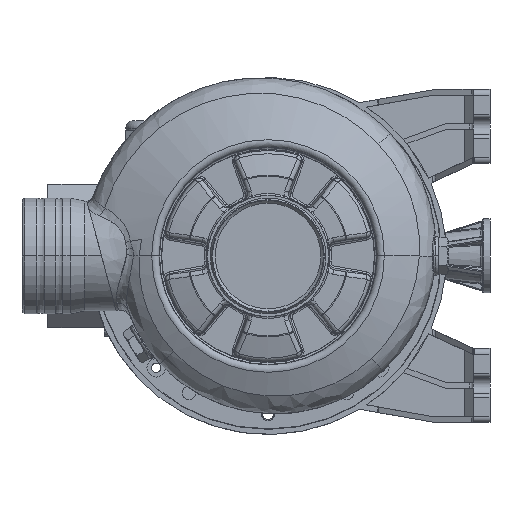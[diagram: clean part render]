
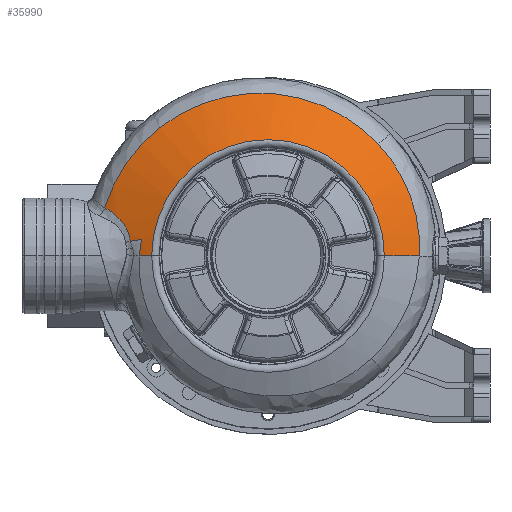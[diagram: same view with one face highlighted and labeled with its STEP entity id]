
A CAD part, left-side view. The second image highlights one B-rep face of the part: STEP entity #35990.
In plain terms, the highlighted spherical face has radius 172 mm.
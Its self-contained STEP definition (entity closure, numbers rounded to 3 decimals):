
#26581=CARTESIAN_POINT('',(0.,0.,36.093));
#26582=DIRECTION('',(0.,0.,-1.));
#26583=DIRECTION('',(0.,1.,0.));
#26584=AXIS2_PLACEMENT_3D('',#26581,#26582,#26583);
#26589=CARTESIAN_POINT('',(0.,0.,-124.));
#26590=DIRECTION('',(1.,0.,0.));
#26591=DIRECTION('',(0.,0.405,0.914));
#26592=AXIS2_PLACEMENT_3D('',#26589,#26590,#26591);
#26597=CARTESIAN_POINT('',(9.009,68.431,33.544));
#26598=CARTESIAN_POINT('',(8.266,68.578,33.522));
#26599=CARTESIAN_POINT('',(6.775,68.847,33.48));
#26600=CARTESIAN_POINT('',(4.526,69.175,33.417));
#26601=CARTESIAN_POINT('',(2.643,69.386,33.365));
#26602=CARTESIAN_POINT('',(1.134,69.517,33.323));
#26603=CARTESIAN_POINT('',(0.378,69.57,
33.302));
#26604=CARTESIAN_POINT('',(0.,69.594,
33.292));
#26609=CARTESIAN_POINT('',(9.009,68.431,33.544));
#26610=CARTESIAN_POINT('',(8.707,70.44,32.688));
#26611=CARTESIAN_POINT('',(8.356,72.427,31.799));
#26612=CARTESIAN_POINT('',(7.957,74.388,30.878));
#26617=CARTESIAN_POINT('',(7.957,74.388,30.878));
#26618=CARTESIAN_POINT('',(10.071,74.682,30.628));
#26619=CARTESIAN_POINT('',(14.185,75.867,29.757));
#26620=CARTESIAN_POINT('',(18.437,78.68,27.861));
#26621=CARTESIAN_POINT('',(21.255,81.382,26.042));
#26622=CARTESIAN_POINT('',(23.108,83.57,24.558));
#26623=CARTESIAN_POINT('',(24.422,85.507,23.235));
#26624=CARTESIAN_POINT('',(25.38,87.089,22.138));
#26625=CARTESIAN_POINT('',(25.789,87.907,21.573));
#26626=CARTESIAN_POINT('',(26.018,88.303,21.291));
#26631=CARTESIAN_POINT('',(26.018,88.303,21.291));
#26632=CARTESIAN_POINT('',(29.663,87.18,21.321));
#26633=CARTESIAN_POINT('',(36.812,84.458,21.395));
#26634=CARTESIAN_POINT('',(46.935,79.,21.547));
#26635=CARTESIAN_POINT('',(56.228,72.298,21.737));
#26636=CARTESIAN_POINT('',(64.596,64.424,21.962));
#26637=CARTESIAN_POINT('',(71.869,55.528,22.218));
#26638=CARTESIAN_POINT('',(77.927,45.75,22.5));
#26639=CARTESIAN_POINT('',(82.651,35.291,22.803));
#26640=CARTESIAN_POINT('',(85.978,24.305,23.123));
#26641=CARTESIAN_POINT('',(87.85,12.961,23.453));
#26642=CARTESIAN_POINT('',(88.229,1.46,23.789));
#26643=CARTESIAN_POINT('',(87.106,-9.991,
24.124));
#26644=CARTESIAN_POINT('',(84.51,-21.173,
24.451));
#26645=CARTESIAN_POINT('',(80.472,-31.944,
24.768));
#26646=CARTESIAN_POINT('',(75.076,-42.085,
25.066));
#26647=CARTESIAN_POINT('',(68.376,-51.473,
25.343));
#26648=CARTESIAN_POINT('',(63.161,-57.065,
25.509));
#26649=CARTESIAN_POINT('',(60.385,-59.678,
25.586));
#26654=CARTESIAN_POINT('',(60.385,-59.678,
25.586));
#26655=CARTESIAN_POINT('',(57.738,-62.171,
25.661));
#26656=CARTESIAN_POINT('',(52.092,-66.819,
25.819));
#26657=CARTESIAN_POINT('',(42.734,-72.619,
26.083));
#26658=CARTESIAN_POINT('',(32.595,-77.146,
26.37));
#26659=CARTESIAN_POINT('',(21.97,-80.25,
26.672));
#26660=CARTESIAN_POINT('',(11.026,-81.898,
26.983));
#26661=CARTESIAN_POINT('',(3.664,-82.005,
27.193));
#26662=CARTESIAN_POINT('',(0.,-81.811,
27.297));
#26667=CARTESIAN_POINT('',(0.,0.,-124.));
#26668=DIRECTION('',(-1.,0.,0.));
#26669=DIRECTION('',(0.,-0.476,0.88));
#26670=AXIS2_PLACEMENT_3D('',#26667,#26668,#26669);
#26699=CARTESIAN_POINT('',(0.,-81.811,
27.297));
#26822=CARTESIAN_POINT('',(7.957,74.388,30.878));
#26830=CARTESIAN_POINT('',(26.018,88.303,21.291));
#29572=VERTEX_POINT('',#26699);
#29573=VERTEX_POINT('',#26654);
#29576=VERTEX_POINT('',#26597);
#29577=VERTEX_POINT('',#26604);
#29617=VERTEX_POINT('',#26822);
#29619=VERTEX_POINT('',#26830);
#29697=CARTESIAN_POINT('',(0.,62.883,36.093));
#29698=CARTESIAN_POINT('',(0.,-62.883,36.093));
#29699=VERTEX_POINT('',#29697);
#29700=VERTEX_POINT('',#29698);
#35968=CARTESIAN_POINT('',(0.,0.,-124.));
#35969=DIRECTION('',(0.,0.,1.));
#35970=DIRECTION('',(0.,1.,0.));
#35971=AXIS2_PLACEMENT_3D('',#35968,#35969,#35970);
#35972=SPHERICAL_SURFACE('',#35971,172.);
#35974=ORIENTED_EDGE('',*,*,#35973,.F.);
#35976=ORIENTED_EDGE('',*,*,#35975,.F.);
#35978=ORIENTED_EDGE('',*,*,#35977,.F.);
#35980=ORIENTED_EDGE('',*,*,#35979,.T.);
#35982=ORIENTED_EDGE('',*,*,#35981,.T.);
#35984=ORIENTED_EDGE('',*,*,#35983,.T.);
#35985=ORIENTED_EDGE('',*,*,#35958,.T.);
#35987=ORIENTED_EDGE('',*,*,#35986,.T.);
#35988=EDGE_LOOP('',(#35974,#35976,#35978,#35980,#35982,#35984,#35985,#35987));
#35989=FACE_OUTER_BOUND('',#35988,.F.);
#26585=CIRCLE('',#26584,62.883);
#26593=CIRCLE('',#26592,172.);
#26605=B_SPLINE_CURVE_WITH_KNOTS('',3,(#26597,#26598,#26599,#26600,#26601,
#26602,#26603,#26604),.UNSPECIFIED.,.F.,.F.,(4,1,1,1,1,4),(0.,0.25,0.5,
0.75,0.875,1.),.UNSPECIFIED.);
#26613=B_SPLINE_CURVE_WITH_KNOTS('',3,(#26609,#26610,#26611,#26612),
.UNSPECIFIED.,.F.,.F.,(4,4),(0.,1.),.UNSPECIFIED.);
#26627=B_SPLINE_CURVE_WITH_KNOTS('',3,(#26617,#26618,#26619,#26620,#26621,
#26622,#26623,#26624,#26625,#26626),.UNSPECIFIED.,.F.,.F.,(4,1,1,1,1,1,1,4),(
0.,0.25,0.5,0.625,0.75,0.875,0.938,1.),.UNSPECIFIED.);
#26650=B_SPLINE_CURVE_WITH_KNOTS('',3,(#26631,#26632,#26633,#26634,#26635,
#26636,#26637,#26638,#26639,#26640,#26641,#26642,#26643,#26644,#26645,#26646,
#26647,#26648,#26649),.UNSPECIFIED.,.F.,.F.,(4,1,1,1,1,1,1,1,1,1,1,1,1,1,1,1,4),
(0.,0.063,0.125,0.188,0.25,0.313,0.375,0.438,0.5,0.563,
0.625,0.688,0.75,0.813,0.875,0.938,1.),.UNSPECIFIED.);
#26663=B_SPLINE_CURVE_WITH_KNOTS('',3,(#26654,#26655,#26656,#26657,#26658,
#26659,#26660,#26661,#26662),.UNSPECIFIED.,.F.,.F.,(4,1,1,1,1,1,4),(0.,
0.167,0.333,0.5,0.667,0.833,
1.),.UNSPECIFIED.);
#26671=CIRCLE('',#26670,172.);
#35958=EDGE_CURVE('',#29573,#29572,#26663,.T.);
#35973=EDGE_CURVE('',#29699,#29700,#26585,.T.);
#35975=EDGE_CURVE('',#29577,#29699,#26593,.T.);
#35977=EDGE_CURVE('',#29576,#29577,#26605,.T.);
#35979=EDGE_CURVE('',#29576,#29617,#26613,.T.);
#35981=EDGE_CURVE('',#29617,#29619,#26627,.T.);
#35983=EDGE_CURVE('',#29619,#29573,#26650,.T.);
#35986=EDGE_CURVE('',#29572,#29700,#26671,.T.);
#35990=ADVANCED_FACE('',(#35989),#35972,.T.);
